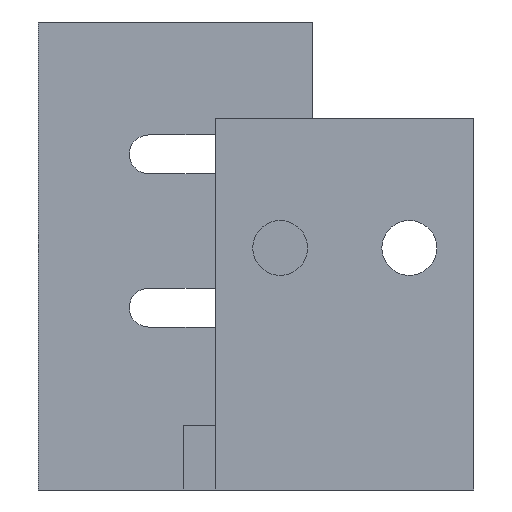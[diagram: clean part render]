
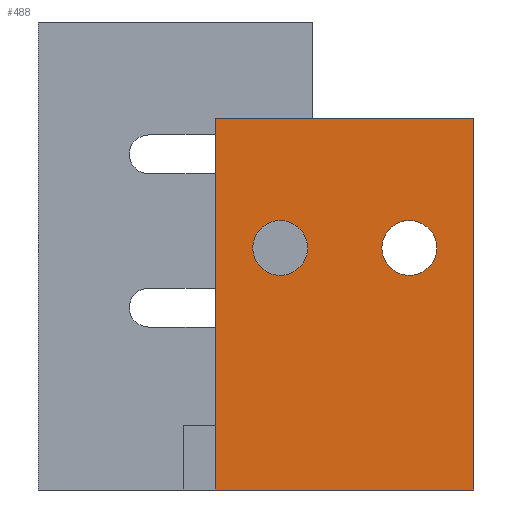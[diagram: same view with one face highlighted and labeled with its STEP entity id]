
A CAD part, left-side view. The second image highlights one B-rep face of the part: STEP entity #488.
In plain terms, the highlighted planar face has unit normal (-1, 0, 0).
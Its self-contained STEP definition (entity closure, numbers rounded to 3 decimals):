
#22 = VERTEX_POINT('',#23);
#23 = CARTESIAN_POINT('',(-8.,-13.5,23.));
#32 = PLANE('',#33);
#33 = AXIS2_PLACEMENT_3D('',#34,#35,#36);
#34 = CARTESIAN_POINT('',(-8.,-13.5,23.));
#35 = DIRECTION('',(0.,0.,-1.));
#36 = DIRECTION('',(1.,0.,0.));
#44 = PLANE('',#45);
#45 = AXIS2_PLACEMENT_3D('',#46,#47,#48);
#46 = CARTESIAN_POINT('',(-8.,-13.5,23.));
#47 = DIRECTION('',(0.,1.,0.));
#48 = DIRECTION('',(1.,0.,0.));
#56 = EDGE_CURVE('',#22,#57,#59,.T.);
#57 = VERTEX_POINT('',#58);
#58 = CARTESIAN_POINT('',(-8.,2.5,23.));
#59 = SURFACE_CURVE('',#60,(#64,#71),.PCURVE_S1.);
#60 = LINE('',#61,#62);
#61 = CARTESIAN_POINT('',(-8.,-13.5,23.));
#62 = VECTOR('',#63,1.);
#63 = DIRECTION('',(0.,1.,0.));
#64 = PCURVE('',#32,#65);
#65 = DEFINITIONAL_REPRESENTATION('',(#66),#70);
#66 = LINE('',#67,#68);
#67 = CARTESIAN_POINT('',(0.,0.));
#68 = VECTOR('',#69,1.);
#69 = DIRECTION('',(0.,-1.));
#70 = ( GEOMETRIC_REPRESENTATION_CONTEXT(2) 
PARAMETRIC_REPRESENTATION_CONTEXT() REPRESENTATION_CONTEXT('2D SPACE',''
  ) );
#71 = PCURVE('',#72,#77);
#72 = PLANE('',#73);
#73 = AXIS2_PLACEMENT_3D('',#74,#75,#76);
#74 = CARTESIAN_POINT('',(-8.,-13.5,23.));
#75 = DIRECTION('',(1.,0.,0.));
#76 = DIRECTION('',(0.,0.,-1.));
#77 = DEFINITIONAL_REPRESENTATION('',(#78),#82);
#78 = LINE('',#79,#80);
#79 = CARTESIAN_POINT('',(0.,0.));
#80 = VECTOR('',#81,1.);
#81 = DIRECTION('',(0.,1.));
#82 = ( GEOMETRIC_REPRESENTATION_CONTEXT(2) 
PARAMETRIC_REPRESENTATION_CONTEXT() REPRESENTATION_CONTEXT('2D SPACE',''
  ) );
#100 = PLANE('',#101);
#101 = AXIS2_PLACEMENT_3D('',#102,#103,#104);
#102 = CARTESIAN_POINT('',(-8.,2.5,23.));
#103 = DIRECTION('',(0.,1.,0.));
#104 = DIRECTION('',(1.,0.,0.));
#142 = VERTEX_POINT('',#143);
#143 = CARTESIAN_POINT('',(-8.,-13.5,0.));
#159 = PLANE('',#160);
#160 = AXIS2_PLACEMENT_3D('',#161,#162,#163);
#161 = CARTESIAN_POINT('',(-8.,-13.5,0.));
#162 = DIRECTION('',(0.,0.,-1.));
#163 = DIRECTION('',(1.,0.,0.));
#171 = EDGE_CURVE('',#22,#142,#172,.T.);
#172 = SURFACE_CURVE('',#173,(#177,#184),.PCURVE_S1.);
#173 = LINE('',#174,#175);
#174 = CARTESIAN_POINT('',(-8.,-13.5,23.));
#175 = VECTOR('',#176,1.);
#176 = DIRECTION('',(0.,0.,-1.));
#177 = PCURVE('',#44,#178);
#178 = DEFINITIONAL_REPRESENTATION('',(#179),#183);
#179 = LINE('',#180,#181);
#180 = CARTESIAN_POINT('',(0.,0.));
#181 = VECTOR('',#182,1.);
#182 = DIRECTION('',(0.,1.));
#183 = ( GEOMETRIC_REPRESENTATION_CONTEXT(2) 
PARAMETRIC_REPRESENTATION_CONTEXT() REPRESENTATION_CONTEXT('2D SPACE',''
  ) );
#184 = PCURVE('',#72,#185);
#185 = DEFINITIONAL_REPRESENTATION('',(#186),#190);
#186 = LINE('',#187,#188);
#187 = CARTESIAN_POINT('',(0.,0.));
#188 = VECTOR('',#189,1.);
#189 = DIRECTION('',(1.,0.));
#190 = ( GEOMETRIC_REPRESENTATION_CONTEXT(2) 
PARAMETRIC_REPRESENTATION_CONTEXT() REPRESENTATION_CONTEXT('2D SPACE',''
  ) );
#342 = CYLINDRICAL_SURFACE('',#343,1.7);
#343 = AXIS2_PLACEMENT_3D('',#344,#345,#346);
#344 = CARTESIAN_POINT('',(-8.02,-9.5,15.));
#345 = DIRECTION('',(-1.,-0.,0.));
#346 = DIRECTION('',(0.,0.,-1.));
#377 = CYLINDRICAL_SURFACE('',#378,1.7);
#378 = AXIS2_PLACEMENT_3D('',#379,#380,#381);
#379 = CARTESIAN_POINT('',(-8.02,-1.5,15.));
#380 = DIRECTION('',(-1.,-0.,0.));
#381 = DIRECTION('',(0.,0.,-1.));
#393 = VERTEX_POINT('',#394);
#394 = CARTESIAN_POINT('',(-8.,2.5,0.));
#417 = EDGE_CURVE('',#57,#393,#418,.T.);
#418 = SURFACE_CURVE('',#419,(#423,#430),.PCURVE_S1.);
#419 = LINE('',#420,#421);
#420 = CARTESIAN_POINT('',(-8.,2.5,23.));
#421 = VECTOR('',#422,1.);
#422 = DIRECTION('',(0.,0.,-1.));
#423 = PCURVE('',#100,#424);
#424 = DEFINITIONAL_REPRESENTATION('',(#425),#429);
#425 = LINE('',#426,#427);
#426 = CARTESIAN_POINT('',(0.,0.));
#427 = VECTOR('',#428,1.);
#428 = DIRECTION('',(0.,1.));
#429 = ( GEOMETRIC_REPRESENTATION_CONTEXT(2) 
PARAMETRIC_REPRESENTATION_CONTEXT() REPRESENTATION_CONTEXT('2D SPACE',''
  ) );
#430 = PCURVE('',#72,#431);
#431 = DEFINITIONAL_REPRESENTATION('',(#432),#436);
#432 = LINE('',#433,#434);
#433 = CARTESIAN_POINT('',(0.,16.));
#434 = VECTOR('',#435,1.);
#435 = DIRECTION('',(1.,0.));
#436 = ( GEOMETRIC_REPRESENTATION_CONTEXT(2) 
PARAMETRIC_REPRESENTATION_CONTEXT() REPRESENTATION_CONTEXT('2D SPACE',''
  ) );
#488 = ADVANCED_FACE('',(#489,#515,#545),#72,.F.);
#489 = FACE_BOUND('',#490,.F.);
#490 = EDGE_LOOP('',(#491,#492,#493,#514));
#491 = ORIENTED_EDGE('',*,*,#56,.F.);
#492 = ORIENTED_EDGE('',*,*,#171,.T.);
#493 = ORIENTED_EDGE('',*,*,#494,.T.);
#494 = EDGE_CURVE('',#142,#393,#495,.T.);
#495 = SURFACE_CURVE('',#496,(#500,#507),.PCURVE_S1.);
#496 = LINE('',#497,#498);
#497 = CARTESIAN_POINT('',(-8.,-13.5,0.));
#498 = VECTOR('',#499,1.);
#499 = DIRECTION('',(0.,1.,0.));
#500 = PCURVE('',#72,#501);
#501 = DEFINITIONAL_REPRESENTATION('',(#502),#506);
#502 = LINE('',#503,#504);
#503 = CARTESIAN_POINT('',(23.,0.));
#504 = VECTOR('',#505,1.);
#505 = DIRECTION('',(0.,1.));
#506 = ( GEOMETRIC_REPRESENTATION_CONTEXT(2) 
PARAMETRIC_REPRESENTATION_CONTEXT() REPRESENTATION_CONTEXT('2D SPACE',''
  ) );
#507 = PCURVE('',#159,#508);
#508 = DEFINITIONAL_REPRESENTATION('',(#509),#513);
#509 = LINE('',#510,#511);
#510 = CARTESIAN_POINT('',(0.,0.));
#511 = VECTOR('',#512,1.);
#512 = DIRECTION('',(0.,-1.));
#513 = ( GEOMETRIC_REPRESENTATION_CONTEXT(2) 
PARAMETRIC_REPRESENTATION_CONTEXT() REPRESENTATION_CONTEXT('2D SPACE',''
  ) );
#514 = ORIENTED_EDGE('',*,*,#417,.F.);
#515 = FACE_BOUND('',#516,.F.);
#516 = EDGE_LOOP('',(#517));
#517 = ORIENTED_EDGE('',*,*,#518,.T.);
#518 = EDGE_CURVE('',#519,#519,#521,.T.);
#519 = VERTEX_POINT('',#520);
#520 = CARTESIAN_POINT('',(-8.,-9.5,13.3));
#521 = SURFACE_CURVE('',#522,(#527,#538),.PCURVE_S1.);
#522 = CIRCLE('',#523,1.7);
#523 = AXIS2_PLACEMENT_3D('',#524,#525,#526);
#524 = CARTESIAN_POINT('',(-8.,-9.5,15.));
#525 = DIRECTION('',(-1.,-0.,0.));
#526 = DIRECTION('',(0.,0.,-1.));
#527 = PCURVE('',#72,#528);
#528 = DEFINITIONAL_REPRESENTATION('',(#529),#537);
#529 = ( BOUNDED_CURVE() B_SPLINE_CURVE(2,(#530,#531,#532,#533,#534,#535
,#536),.UNSPECIFIED.,.T.,.F.) B_SPLINE_CURVE_WITH_KNOTS((1,2,2,2,2,1),(
    -2.094,0.,2.094,4.189,6.283,
8.378),.UNSPECIFIED.) CURVE() GEOMETRIC_REPRESENTATION_ITEM() 
RATIONAL_B_SPLINE_CURVE((1.,0.5,1.,0.5,1.,0.5,1.)) REPRESENTATION_ITEM(
  '') );
#530 = CARTESIAN_POINT('',(9.7,4.));
#531 = CARTESIAN_POINT('',(9.7,1.056));
#532 = CARTESIAN_POINT('',(7.15,2.528));
#533 = CARTESIAN_POINT('',(4.6,4.));
#534 = CARTESIAN_POINT('',(7.15,5.472));
#535 = CARTESIAN_POINT('',(9.7,6.944));
#536 = CARTESIAN_POINT('',(9.7,4.));
#537 = ( GEOMETRIC_REPRESENTATION_CONTEXT(2) 
PARAMETRIC_REPRESENTATION_CONTEXT() REPRESENTATION_CONTEXT('2D SPACE',''
  ) );
#538 = PCURVE('',#342,#539);
#539 = DEFINITIONAL_REPRESENTATION('',(#540),#544);
#540 = LINE('',#541,#542);
#541 = CARTESIAN_POINT('',(-6.283,-0.02));
#542 = VECTOR('',#543,1.);
#543 = DIRECTION('',(1.,-0.));
#544 = ( GEOMETRIC_REPRESENTATION_CONTEXT(2) 
PARAMETRIC_REPRESENTATION_CONTEXT() REPRESENTATION_CONTEXT('2D SPACE',''
  ) );
#545 = FACE_BOUND('',#546,.F.);
#546 = EDGE_LOOP('',(#547));
#547 = ORIENTED_EDGE('',*,*,#548,.T.);
#548 = EDGE_CURVE('',#549,#549,#551,.T.);
#549 = VERTEX_POINT('',#550);
#550 = CARTESIAN_POINT('',(-8.,-1.5,13.3));
#551 = SURFACE_CURVE('',#552,(#557,#568),.PCURVE_S1.);
#552 = CIRCLE('',#553,1.7);
#553 = AXIS2_PLACEMENT_3D('',#554,#555,#556);
#554 = CARTESIAN_POINT('',(-8.,-1.5,15.));
#555 = DIRECTION('',(-1.,-0.,0.));
#556 = DIRECTION('',(0.,0.,-1.));
#557 = PCURVE('',#72,#558);
#558 = DEFINITIONAL_REPRESENTATION('',(#559),#567);
#559 = ( BOUNDED_CURVE() B_SPLINE_CURVE(2,(#560,#561,#562,#563,#564,#565
,#566),.UNSPECIFIED.,.T.,.F.) B_SPLINE_CURVE_WITH_KNOTS((1,2,2,2,2,1),(
    -2.094,0.,2.094,4.189,6.283,
8.378),.UNSPECIFIED.) CURVE() GEOMETRIC_REPRESENTATION_ITEM() 
RATIONAL_B_SPLINE_CURVE((1.,0.5,1.,0.5,1.,0.5,1.)) REPRESENTATION_ITEM(
  '') );
#560 = CARTESIAN_POINT('',(9.7,12.));
#561 = CARTESIAN_POINT('',(9.7,9.056));
#562 = CARTESIAN_POINT('',(7.15,10.528));
#563 = CARTESIAN_POINT('',(4.6,12.));
#564 = CARTESIAN_POINT('',(7.15,13.472));
#565 = CARTESIAN_POINT('',(9.7,14.944));
#566 = CARTESIAN_POINT('',(9.7,12.));
#567 = ( GEOMETRIC_REPRESENTATION_CONTEXT(2) 
PARAMETRIC_REPRESENTATION_CONTEXT() REPRESENTATION_CONTEXT('2D SPACE',''
  ) );
#568 = PCURVE('',#377,#569);
#569 = DEFINITIONAL_REPRESENTATION('',(#570),#574);
#570 = LINE('',#571,#572);
#571 = CARTESIAN_POINT('',(-6.283,-0.02));
#572 = VECTOR('',#573,1.);
#573 = DIRECTION('',(1.,-0.));
#574 = ( GEOMETRIC_REPRESENTATION_CONTEXT(2) 
PARAMETRIC_REPRESENTATION_CONTEXT() REPRESENTATION_CONTEXT('2D SPACE',''
  ) );
